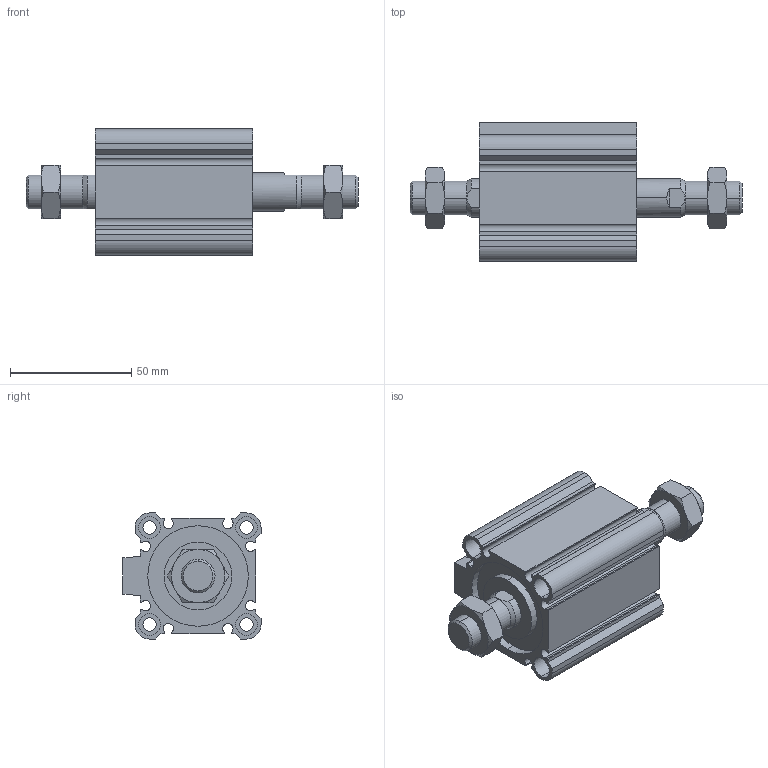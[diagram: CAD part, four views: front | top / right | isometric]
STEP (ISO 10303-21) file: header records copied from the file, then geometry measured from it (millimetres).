
FILE_DESCRIPTION (( 'STEP AP203' ), '1' );
FILE_NAME ('CCMB40-15M-P.STEP', '2020-08-10T11:37:51', ( '' ), ( '' ), 'SwSTEP 2.0', 'SolidWorks 2019', '' );
FILE_SCHEMA (( 'CONFIG_CONTROL_DESIGN' ));
Length unit declared in the file: millimetre
Products named in the file (1): CCMB40-15M-P
Bounding box: 137 x 57 x 52 mm (x, y, z)
Volume: 141494.5 mm3; surface area: 52383.6 mm2
Topology: 4 solids, 4 shells, 216 faces, 522 edges, 332 vertices
Faces by surface type: plane 94, cylinder 78, cone 44
Entity records: 7009 total; most frequent: CARTESIAN_POINT 1819, DIRECTION 1088, ORIENTED_EDGE 1044, EDGE_CURVE 522, AXIS2_PLACEMENT_3D 413, VERTEX_POINT 332, LINE 262, VECTOR 262
